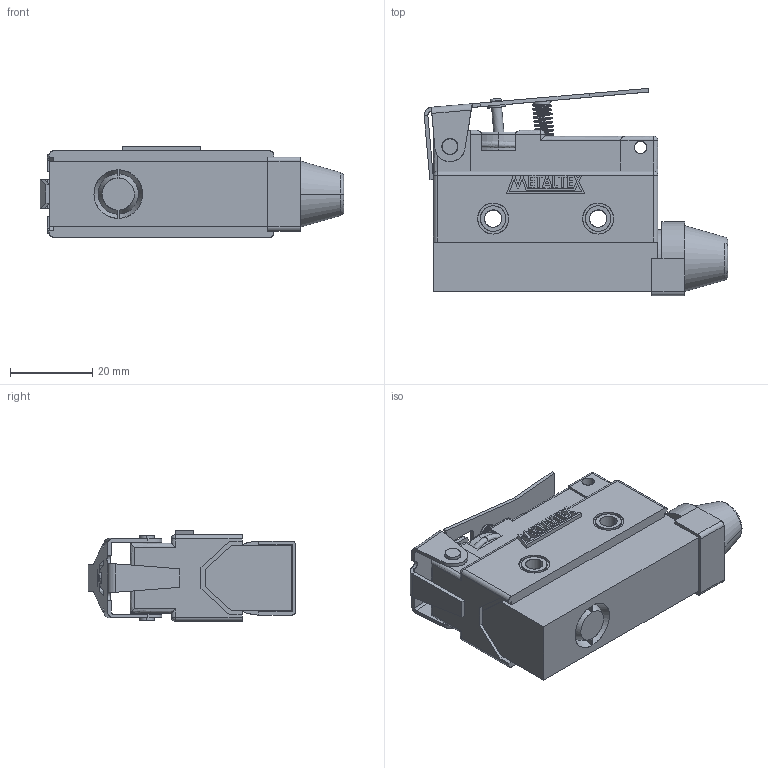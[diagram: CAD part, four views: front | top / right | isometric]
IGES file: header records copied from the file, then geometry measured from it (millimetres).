
Start section: SolidWorks IGES file using analytic representation for surfaces
Global section: file name: D:\X - Arquivos\PROEX\Empresas\P11 - METALTEX\01 - Produtos\IGES\4ª remessa\6ª etapa\FM7140.IGS; native system: SolidWorks 2012; preprocessor: SolidWorks 2012; author: Usuario; date: 180620.131508; units: millimetre
Bounding box: 73.76 x 50.36 x 22 mm (x, y, z)
Surface area: 12875 mm2 (no closed solid volume)
Topology: 0 solids, 0 shells, 382 faces, 4442 edges, 4415 vertices
Faces by surface type: bspline 257, revolution 125
